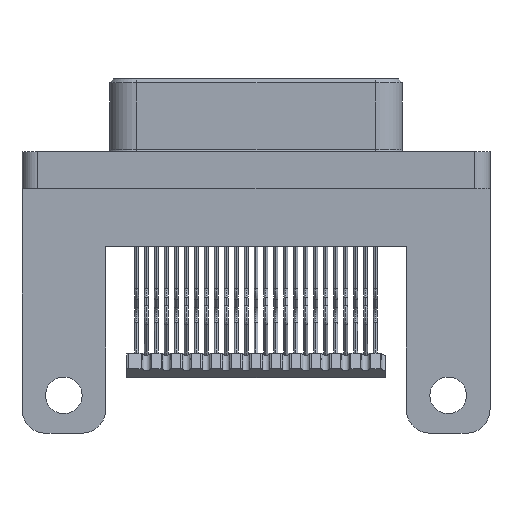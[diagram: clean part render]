
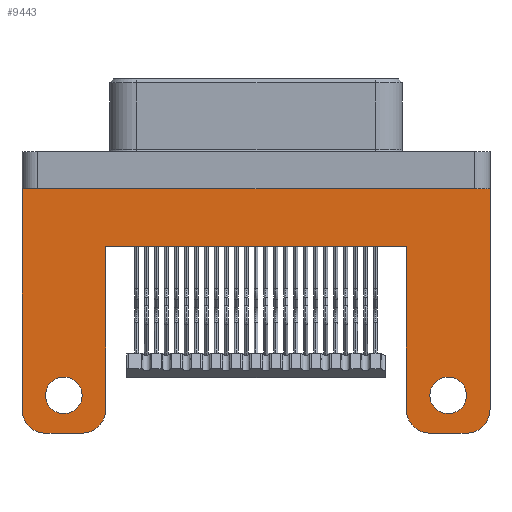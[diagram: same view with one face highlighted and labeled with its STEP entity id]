
A CAD part, front view. The second image highlights one B-rep face of the part: STEP entity #9443.
In plain terms, the highlighted planar face has unit normal (0, -1, 0).
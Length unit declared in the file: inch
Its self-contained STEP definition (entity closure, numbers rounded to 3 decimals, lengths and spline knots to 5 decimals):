
#2 = EDGE_CURVE ( 'NONE', #3635, #46620, #9573, .T. ) ;
#264 = FACE_OUTER_BOUND ( 'NONE', #12326, .T. ) ;
#601 = CARTESIAN_POINT ( 'NONE',  ( 0.5875, -0.17, -1.4138 ) ) ;
#637 = VECTOR ( 'NONE', #6526, 39.37008 ) ;
#768 = VERTEX_POINT ( 'NONE', #17319 ) ;
#773 = AXIS2_PLACEMENT_3D ( 'NONE', #32483, #17588, #32256 ) ;
#1783 = VERTEX_POINT ( 'NONE', #20911 ) ;
#2147 = DIRECTION ( 'NONE',  ( 0., -1., 0. ) ) ;
#2166 = ORIENTED_EDGE ( 'NONE', *, *, #41325, .T. ) ;
#2295 = CARTESIAN_POINT ( 'NONE',  ( 0.5875, -0.17, -0.196 ) ) ;
#3233 = EDGE_CURVE ( 'NONE', #43550, #45324, #11792, .T. ) ;
#3635 = VERTEX_POINT ( 'NONE', #24513 ) ;
#3740 = EDGE_CURVE ( 'NONE', #46620, #3635, #18437, .T. ) ;
#4706 = AXIS2_PLACEMENT_3D ( 'NONE', #32209, #40253, #25123 ) ;
#5500 = EDGE_CURVE ( 'NONE', #8570, #20284, #41985, .T. ) ;
#6120 = DIRECTION ( 'NONE',  ( 0., 0., 1. ) ) ;
#6271 = ORIENTED_EDGE ( 'NONE', *, *, #3740, .T. ) ;
#6403 = ORIENTED_EDGE ( 'NONE', *, *, #17768, .T. ) ;
#6526 = DIRECTION ( 'NONE',  ( 1., 0., 0. ) ) ;
#6711 = CARTESIAN_POINT ( 'NONE',  ( -0.5875, -0.17, -0.051 ) ) ;
#6980 = DIRECTION ( 'NONE',  ( 0., 0., 1. ) ) ;
#7765 = CARTESIAN_POINT ( 'NONE',  ( -0.5875, -0.17, -1.4138 ) ) ;
#7989 = CIRCLE ( 'NONE', #14041, 0.06 ) ;
#8304 = EDGE_CURVE ( 'NONE', #43550, #37720, #24187, .T. ) ;
#8308 = ORIENTED_EDGE ( 'NONE', *, *, #8383, .T. ) ;
#8367 = EDGE_CURVE ( 'NONE', #8570, #42510, #13830, .T. ) ;
#8383 = EDGE_CURVE ( 'NONE', #41517, #20224, #13653, .T. ) ;
#8570 = VERTEX_POINT ( 'NONE', #21580 ) ;
#9443 = ADVANCED_FACE ( 'NONE', ( #35998, #24891, #264 ), #17784, .F. ) ;
#9550 = VERTEX_POINT ( 'NONE', #44243 ) ;
#9573 = CIRCLE ( 'NONE', #38315, 0.046 ) ;
#9789 = DIRECTION ( 'NONE',  ( 0., -1., 0. ) ) ;
#9869 = VERTEX_POINT ( 'NONE', #17891 ) ;
#10447 = ORIENTED_EDGE ( 'NONE', *, *, #36424, .T. ) ;
#10539 = LINE ( 'NONE', #601, #30452 ) ;
#10563 = EDGE_CURVE ( 'NONE', #20224, #9550, #10539, .T. ) ;
#11792 = LINE ( 'NONE', #7765, #19867 ) ;
#11948 = CARTESIAN_POINT ( 'NONE',  ( 0.4825, -0.17, -0.57 ) ) ;
#12123 = DIRECTION ( 'NONE',  ( 0., 0., 1. ) ) ;
#12184 = ORIENTED_EDGE ( 'NONE', *, *, #2, .T. ) ;
#12250 = VECTOR ( 'NONE', #6120, 39.37008 ) ;
#12326 = EDGE_LOOP ( 'NONE', ( #27181, #8308, #24093, #27738, #37007, #21599, #33970, #10447, #19680, #20894, #33248, #14886 ) ) ;
#13649 = EDGE_CURVE ( 'NONE', #30768, #42510, #27874, .T. ) ;
#13653 = CIRCLE ( 'NONE', #773, 0.06 ) ;
#13830 = LINE ( 'NONE', #38450, #20390 ) ;
#13967 = CARTESIAN_POINT ( 'NONE',  ( -0.3775, -0.17, -0.665 ) ) ;
#14041 = AXIS2_PLACEMENT_3D ( 'NONE', #14161, #31674, #32357 ) ;
#14083 = DIRECTION ( 'NONE',  ( 0., 1., 0. ) ) ;
#14161 = CARTESIAN_POINT ( 'NONE',  ( -0.4375, -0.17, -0.605 ) ) ;
#14886 = ORIENTED_EDGE ( 'NONE', *, *, #5500, .T. ) ;
#15275 = DIRECTION ( 'NONE',  ( 0., 0., 1. ) ) ;
#15702 = CARTESIAN_POINT ( 'NONE',  ( 0.5875, -0.17, -0.605 ) ) ;
#16985 = CARTESIAN_POINT ( 'NONE',  ( -0.5875, -0.17, -0.665 ) ) ;
#17319 = CARTESIAN_POINT ( 'NONE',  ( -0.3775, -0.17, -0.605 ) ) ;
#17588 = DIRECTION ( 'NONE',  ( 0., -1., 0. ) ) ;
#17605 = CARTESIAN_POINT ( 'NONE',  ( 0.5875, -0.17, -0.665 ) ) ;
#17768 = EDGE_CURVE ( 'NONE', #43780, #1783, #30963, .T. ) ;
#17784 = PLANE ( 'NONE',  #4706 ) ;
#17891 = CARTESIAN_POINT ( 'NONE',  ( -0.4375, -0.17, -0.665 ) ) ;
#17928 = LINE ( 'NONE', #32362, #46610 ) ;
#18437 = CIRCLE ( 'NONE', #33529, 0.046 ) ;
#18739 = DIRECTION ( 'NONE',  ( -1., 0., 0. ) ) ;
#19680 = ORIENTED_EDGE ( 'NONE', *, *, #42200, .T. ) ;
#19730 = CARTESIAN_POINT ( 'NONE',  ( -0.5275, -0.17, -0.665 ) ) ;
#19814 = DIRECTION ( 'NONE',  ( -1., 0., 0. ) ) ;
#19867 = VECTOR ( 'NONE', #40180, 39.37008 ) ;
#20135 = DIRECTION ( 'NONE',  ( 0., 0., 1. ) ) ;
#20224 = VERTEX_POINT ( 'NONE', #15702 ) ;
#20284 = VERTEX_POINT ( 'NONE', #40546 ) ;
#20390 = VECTOR ( 'NONE', #31342, 39.37008 ) ;
#20894 = ORIENTED_EDGE ( 'NONE', *, *, #13649, .T. ) ;
#20911 = CARTESIAN_POINT ( 'NONE',  ( 0.4825, -0.17, -0.616 ) ) ;
#21526 = CARTESIAN_POINT ( 'NONE',  ( 0.5275, -0.17, -0.665 ) ) ;
#21580 = CARTESIAN_POINT ( 'NONE',  ( 0.3775, -0.17, -0.605 ) ) ;
#21599 = ORIENTED_EDGE ( 'NONE', *, *, #8304, .T. ) ;
#21865 = CARTESIAN_POINT ( 'NONE',  ( -0.4825, -0.17, -0.57 ) ) ;
#22054 = EDGE_LOOP ( 'NONE', ( #6403, #2166 ) ) ;
#22197 = DIRECTION ( 'NONE',  ( -1., 0., 0. ) ) ;
#22621 = DIRECTION ( 'NONE',  ( 0., 1., 0. ) ) ;
#22719 = CARTESIAN_POINT ( 'NONE',  ( -0.4825, -0.17, -0.524 ) ) ;
#22775 = VECTOR ( 'NONE', #18739, 39.37008 ) ;
#23304 = CARTESIAN_POINT ( 'NONE',  ( 0.4825, -0.17, -0.524 ) ) ;
#23634 = LINE ( 'NONE', #16985, #38951 ) ;
#23678 = DIRECTION ( 'NONE',  ( 0., 0., 1. ) ) ;
#24093 = ORIENTED_EDGE ( 'NONE', *, *, #10563, .T. ) ;
#24187 = CIRCLE ( 'NONE', #37781, 0.06 ) ;
#24513 = CARTESIAN_POINT ( 'NONE',  ( -0.4825, -0.17, -0.616 ) ) ;
#24891 = FACE_BOUND ( 'NONE', #22054, .T. ) ;
#25123 = DIRECTION ( 'NONE',  ( 0., 0., 1. ) ) ;
#25700 = AXIS2_PLACEMENT_3D ( 'NONE', #11948, #22621, #15275 ) ;
#27181 = ORIENTED_EDGE ( 'NONE', *, *, #35240, .F. ) ;
#27738 = ORIENTED_EDGE ( 'NONE', *, *, #32641, .T. ) ;
#27874 = LINE ( 'NONE', #2295, #637 ) ;
#28175 = CARTESIAN_POINT ( 'NONE',  ( -0.3775, -0.17, -0.196 ) ) ;
#29035 = CARTESIAN_POINT ( 'NONE',  ( 0.3775, -0.17, -0.196 ) ) ;
#29384 = LINE ( 'NONE', #17605, #22775 ) ;
#30452 = VECTOR ( 'NONE', #6980, 39.37008 ) ;
#30768 = VERTEX_POINT ( 'NONE', #28175 ) ;
#30963 = CIRCLE ( 'NONE', #25700, 0.046 ) ;
#31149 = CIRCLE ( 'NONE', #42487, 0.046 ) ;
#31342 = DIRECTION ( 'NONE',  ( 0., 0., 1. ) ) ;
#31674 = DIRECTION ( 'NONE',  ( 0., -1., 0. ) ) ;
#31734 = EDGE_CURVE ( 'NONE', #9869, #37720, #23634, .T. ) ;
#32164 = LINE ( 'NONE', #13967, #12250 ) ;
#32209 = CARTESIAN_POINT ( 'NONE',  ( 0.5875, -0.17, -1.4138 ) ) ;
#32256 = DIRECTION ( 'NONE',  ( 0., 0., 1. ) ) ;
#32357 = DIRECTION ( 'NONE',  ( 0., 0., 1. ) ) ;
#32362 = CARTESIAN_POINT ( 'NONE',  ( 0.5875, -0.17, -0.051 ) ) ;
#32483 = CARTESIAN_POINT ( 'NONE',  ( 0.5275, -0.17, -0.605 ) ) ;
#32641 = EDGE_CURVE ( 'NONE', #9550, #45324, #17928, .T. ) ;
#33248 = ORIENTED_EDGE ( 'NONE', *, *, #8367, .F. ) ;
#33529 = AXIS2_PLACEMENT_3D ( 'NONE', #46448, #14083, #44073 ) ;
#33970 = ORIENTED_EDGE ( 'NONE', *, *, #31734, .F. ) ;
#35240 = EDGE_CURVE ( 'NONE', #41517, #20284, #29384, .T. ) ;
#35998 = FACE_BOUND ( 'NONE', #46405, .T. ) ;
#36424 = EDGE_CURVE ( 'NONE', #9869, #768, #7989, .T. ) ;
#37007 = ORIENTED_EDGE ( 'NONE', *, *, #3233, .F. ) ;
#37720 = VERTEX_POINT ( 'NONE', #19730 ) ;
#37781 = AXIS2_PLACEMENT_3D ( 'NONE', #42222, #9789, #45964 ) ;
#38209 = AXIS2_PLACEMENT_3D ( 'NONE', #41677, #2147, #20135 ) ;
#38315 = AXIS2_PLACEMENT_3D ( 'NONE', #21865, #44493, #12123 ) ;
#38450 = CARTESIAN_POINT ( 'NONE',  ( 0.3775, -0.17, -0.665 ) ) ;
#38951 = VECTOR ( 'NONE', #19814, 39.37008 ) ;
#40180 = DIRECTION ( 'NONE',  ( 0., 0., 1. ) ) ;
#40253 = DIRECTION ( 'NONE',  ( 0., 1., 0. ) ) ;
#40546 = CARTESIAN_POINT ( 'NONE',  ( 0.4375, -0.17, -0.665 ) ) ;
#41325 = EDGE_CURVE ( 'NONE', #1783, #43780, #31149, .T. ) ;
#41517 = VERTEX_POINT ( 'NONE', #21526 ) ;
#41642 = CARTESIAN_POINT ( 'NONE',  ( 0.4825, -0.17, -0.57 ) ) ;
#41677 = CARTESIAN_POINT ( 'NONE',  ( 0.4375, -0.17, -0.605 ) ) ;
#41786 = CARTESIAN_POINT ( 'NONE',  ( -0.5875, -0.17, -0.605 ) ) ;
#41873 = DIRECTION ( 'NONE',  ( 0., 1., 0. ) ) ;
#41985 = CIRCLE ( 'NONE', #38209, 0.06 ) ;
#42200 = EDGE_CURVE ( 'NONE', #768, #30768, #32164, .T. ) ;
#42222 = CARTESIAN_POINT ( 'NONE',  ( -0.5275, -0.17, -0.605 ) ) ;
#42487 = AXIS2_PLACEMENT_3D ( 'NONE', #41642, #41873, #23678 ) ;
#42510 = VERTEX_POINT ( 'NONE', #29035 ) ;
#43550 = VERTEX_POINT ( 'NONE', #41786 ) ;
#43780 = VERTEX_POINT ( 'NONE', #23304 ) ;
#44073 = DIRECTION ( 'NONE',  ( 0., 0., 1. ) ) ;
#44243 = CARTESIAN_POINT ( 'NONE',  ( 0.5875, -0.17, -0.051 ) ) ;
#44493 = DIRECTION ( 'NONE',  ( 0., 1., 0. ) ) ;
#45324 = VERTEX_POINT ( 'NONE', #6711 ) ;
#45964 = DIRECTION ( 'NONE',  ( 0., 0., 1. ) ) ;
#46405 = EDGE_LOOP ( 'NONE', ( #6271, #12184 ) ) ;
#46448 = CARTESIAN_POINT ( 'NONE',  ( -0.4825, -0.17, -0.57 ) ) ;
#46610 = VECTOR ( 'NONE', #22197, 39.37008 ) ;
#46620 = VERTEX_POINT ( 'NONE', #22719 ) ;
